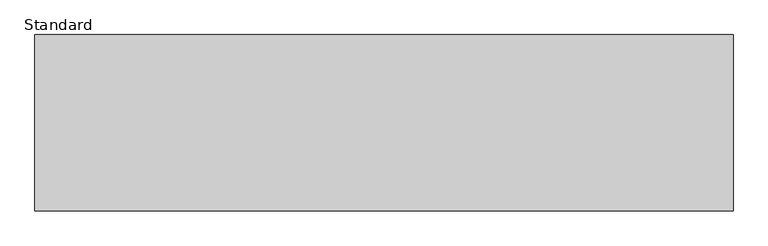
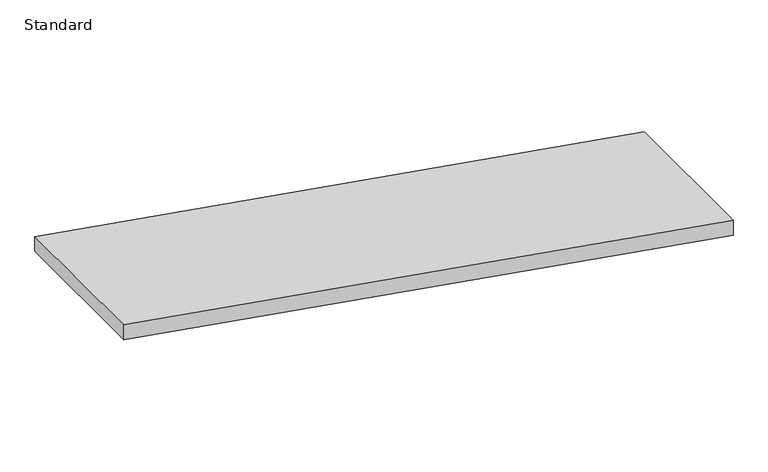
"""IFC4 building model written with IfcOpenShell, lengths in millimetres: ramp geometry, Standard."""

from ifc_helpers import new_model, si_unit, frame, origin, place, context, project, spatial, polyline, outline, extrude, source, transform, mapped, element, save


def standard_389605a6(model_context):
    return source(origin(), model_context, "Body", "SweptSolid", [
        extrude(outline(polyline([(0.0, -5893.2131888), (1000.0, -11831.6874983), (847.8881407, -11831.6874983), (-152.1118593, -5893.2131888), (0.0, -5893.2131888)])), frame((0.0, 9747.200745, 0.0), z_axis=(0.0, 1.0, 0.0), x_axis=(0.0, 0.0, 1.0)), (0.0, 0.0, 1.0), 1500.0),
    ])


if __name__ == "__main__":
    model = new_model("IFC4")
    model_context = context("Model", 3, world=origin())
    ifc_project = project(units=[si_unit("LENGTHUNIT", "METRE", prefix="MILLI")], contexts=[model_context])
    site = spatial("IfcSite", under=ifc_project)
    building = spatial("IfcBuilding", under=site)
    placement = place(None, origin())
    standard_shape = standard_389605a6(model_context)
    element("IfcRamp", 1, ObjectType="Standard", at=placement, inside=building, context=model_context, shape_type="MappedRepresentation", body=[
        mapped(standard_shape, transform((0.0, 0.0, 0.0), x_axis=(1.0, 0.0, 0.0), y_axis=(0.0, 1.0, 0.0), z_axis=(0.0, 0.0, 1.0))),
    ])
    save(model, "model.ifc")
